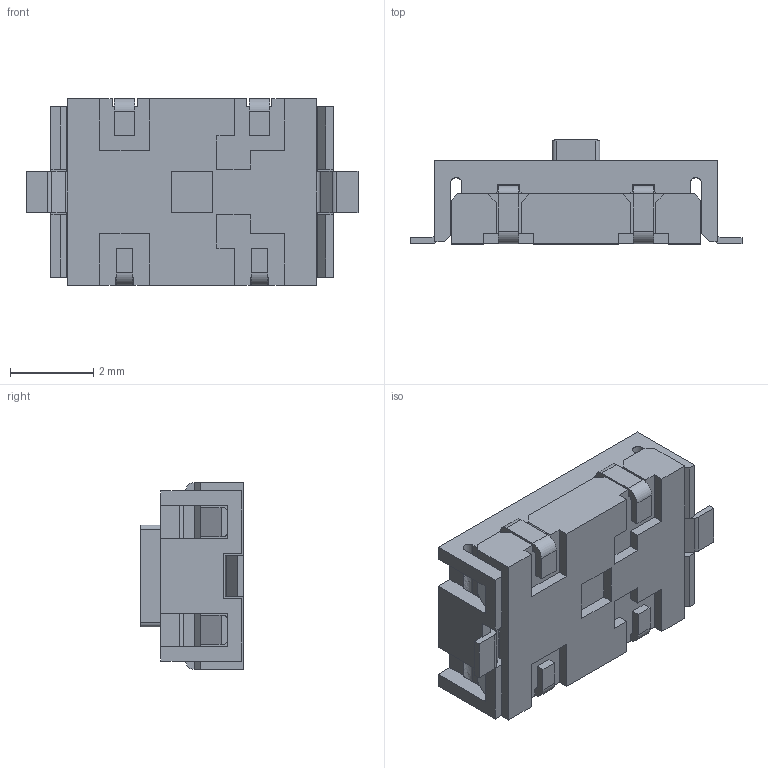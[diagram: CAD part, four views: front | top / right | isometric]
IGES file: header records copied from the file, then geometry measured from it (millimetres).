
Start section:  PTC IGES file: NTC001-BA1G-B160T.igs
Global section: file name: NTC001-BA1G-B160T.igs; native system: Pro/ENGINEER by Parametric Technology Corporation; preprocessor: 2008230; author: Rd-Ken; organization: Unknown; date: 20100602.131929; units: millimetre
Bounding box: 8 x 2.5 x 4.5 mm (x, y, z)
Surface area: 226.3 mm2 (no closed solid volume)
Topology: 0 solids, 6 shells, 254 faces, 915 edges, 680 vertices
Faces by surface type: bspline 222, revolution 32
